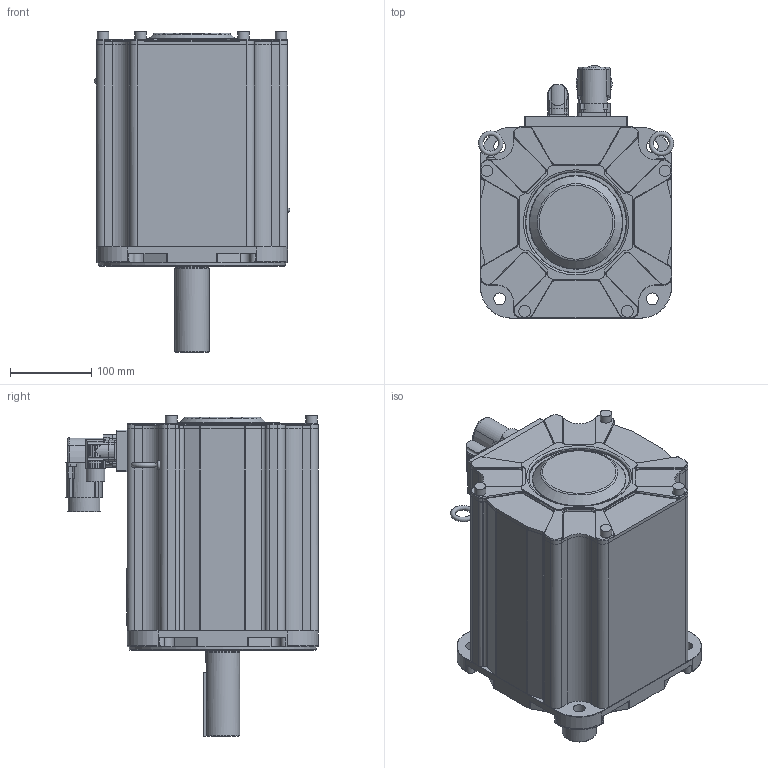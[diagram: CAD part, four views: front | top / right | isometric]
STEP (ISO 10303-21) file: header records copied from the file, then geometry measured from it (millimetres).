
FILE_DESCRIPTION((''),'2;1');
FILE_NAME('C:\CAD_work\Dummy_Modeling_Project_02-12-05\3D MODELS\MPP2306XXX_NPSN.stp','2006-02-03T10:22:28',('jevans'),(''),'Autodesk Inventor 10','Autodesk Inventor 10','');
FILE_SCHEMA(('AUTOMOTIVE_DESIGN { 1 0 10303 214 1 1 1 1 }'));
Length unit declared in the file: inch
Products named in the file (1): MPP230_MOTOR
Bounding box: 240.21 x 310.16 x 394.44 mm (x, y, z)
Volume: 13471834.7 mm3; surface area: 480519.2 mm2
Topology: 1 solids, 3 shells, 920 faces, 2327 edges, 1470 vertices
Faces by surface type: cylinder 392, plane 350, bspline 110, torus 52, cone 16
Full cylindrical faces by diameter (mm): 1.016 x17, 2 x2, 3.6 x4, 14.275 x4, 19.05 x1, 19.685 x1, 22.86 x1, 32.639 x1, 39.624 x1, 41.656 x1, 42.012 x1, 44.907 x1, 45.009 x1, 57.15 x1, 75.024 x1, 80.01 x1, 91.44 x1, 100 x1, 100.018 x1, 100.272 x2, 114.299 x1, 114.3 x1, 124.46 x1, 230.001 x1
Entity records: 31148 total; most frequent: CARTESIAN_POINT 9560, DIRECTION 4559, ORIENTED_EDGE 4422, EDGE_CURVE 2211, AXIS2_PLACEMENT_3D 1755, VERTEX_POINT 1435, EDGE_LOOP 1070, VECTOR 1049
